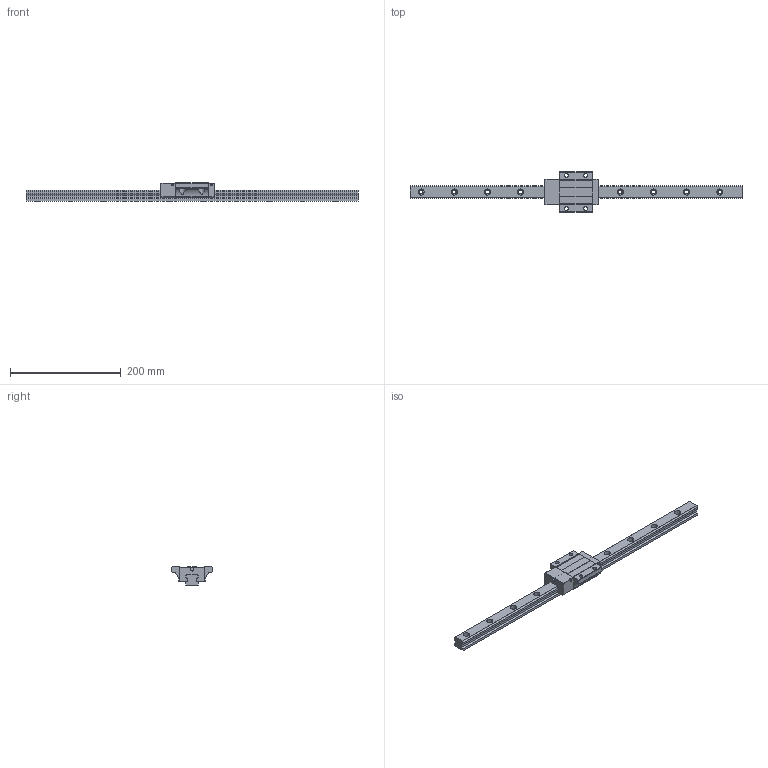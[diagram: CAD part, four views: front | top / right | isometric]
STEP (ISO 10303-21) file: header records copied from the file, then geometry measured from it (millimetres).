
FILE_DESCRIPTION (( 'STEP AP203' ), '1' );
FILE_NAME ('TRS25FN-BN.STEP', '2024-07-11T01:54:18', ( '' ), ( '' ), 'SwSTEP 2.0', 'SolidWorks 2022', '' );
FILE_SCHEMA (( 'CONFIG_CONTROL_DESIGN' ));
Length unit declared in the file: millimetre
Products named in the file (1): TRS25FN-BN
Bounding box: 600 x 73 x 33 mm (x, y, z)
Volume: 341224.4 mm3; surface area: 82870.1 mm2
Topology: 2 solids, 2 shells, 230 faces, 614 edges, 400 vertices
Faces by surface type: cylinder 126, plane 100, sphere 4
Entity records: 7984 total; most frequent: CARTESIAN_POINT 1967, DIRECTION 1274, ORIENTED_EDGE 1220, EDGE_CURVE 610, AXIS2_PLACEMENT_3D 459, VERTEX_POINT 400, VECTOR 356, LINE 356
